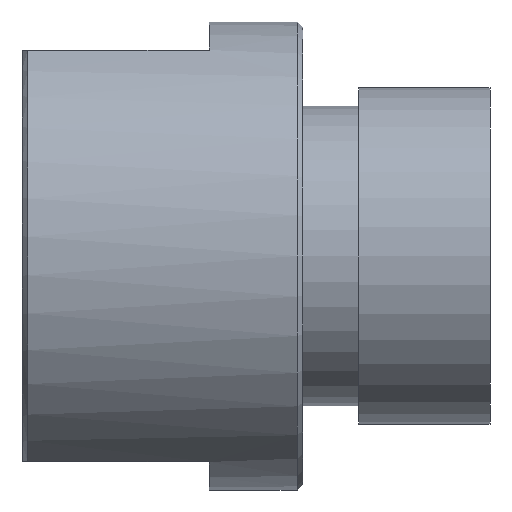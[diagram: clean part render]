
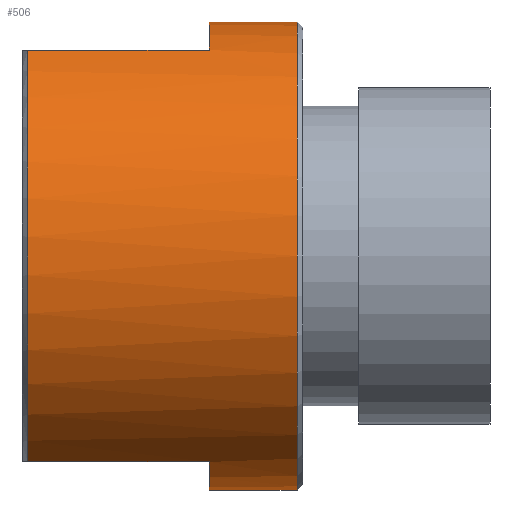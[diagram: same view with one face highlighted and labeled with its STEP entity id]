
A CAD part, left-side view. The second image highlights one B-rep face of the part: STEP entity #506.
In plain terms, the highlighted cylindrical face has radius 12.5 mm (diameter 25 mm), a partial arc.
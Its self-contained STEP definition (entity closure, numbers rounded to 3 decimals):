
#16 = ORIENTED_EDGE ( 'NONE', *, *, #124, .T. ) ;
#36 = AXIS2_PLACEMENT_3D ( 'NONE', #240, #230, #290 ) ;
#51 = CARTESIAN_POINT ( 'NONE',  ( 0., 5., 0. ) ) ;
#67 = CARTESIAN_POINT ( 'NONE',  ( 0., 15., 12.5 ) ) ;
#90 = DIRECTION ( 'NONE',  ( 0., 0., 1. ) ) ;
#91 = ORIENTED_EDGE ( 'NONE', *, *, #750, .F. ) ;
#96 = CARTESIAN_POINT ( 'NONE',  ( 0., 15., 0. ) ) ;
#104 = LINE ( 'NONE', #693, #375 ) ;
#106 = EDGE_CURVE ( 'NONE', #327, #377, #274, .T. ) ;
#124 = EDGE_CURVE ( 'NONE', #331, #377, #393, .T. ) ;
#134 = ORIENTED_EDGE ( 'NONE', *, *, #503, .F. ) ;
#137 = EDGE_CURVE ( 'NONE', #810, #341, #201, .T. ) ;
#153 = VECTOR ( 'NONE', #732, 1000. ) ;
#177 = CARTESIAN_POINT ( 'NONE',  ( -5.937, 15., -11. ) ) ;
#201 = LINE ( 'NONE', #67, #153 ) ;
#204 = ORIENTED_EDGE ( 'NONE', *, *, #371, .T. ) ;
#222 = CARTESIAN_POINT ( 'NONE',  ( 0., 0.3, -12.5 ) ) ;
#227 = EDGE_LOOP ( 'NONE', ( #276, #743, #91, #16, #544, #134, #204, #783 ) ) ;
#230 = DIRECTION ( 'NONE',  ( 0., -1., 0. ) ) ;
#240 = CARTESIAN_POINT ( 'NONE',  ( 0., 5., 0. ) ) ;
#274 = LINE ( 'NONE', #177, #608 ) ;
#276 = ORIENTED_EDGE ( 'NONE', *, *, #137, .F. ) ;
#281 = VERTEX_POINT ( 'NONE', #222 ) ;
#286 = EDGE_CURVE ( 'NONE', #281, #341, #522, .T. ) ;
#290 = DIRECTION ( 'NONE',  ( 0., 0., -1. ) ) ;
#292 = DIRECTION ( 'NONE',  ( 0., -1., 0. ) ) ;
#317 = DIRECTION ( 'NONE',  ( 0., 1., 0. ) ) ;
#327 = VERTEX_POINT ( 'NONE', #550 ) ;
#331 = VERTEX_POINT ( 'NONE', #685 ) ;
#341 = VERTEX_POINT ( 'NONE', #618 ) ;
#348 = AXIS2_PLACEMENT_3D ( 'NONE', #51, #565, #436 ) ;
#352 = VECTOR ( 'NONE', #830, 1000. ) ;
#357 = CARTESIAN_POINT ( 'NONE',  ( 0., 15., -12.5 ) ) ;
#371 = EDGE_CURVE ( 'NONE', #670, #281, #529, .T. ) ;
#375 = VECTOR ( 'NONE', #292, 1000. ) ;
#377 = VERTEX_POINT ( 'NONE', #615 ) ;
#386 = CIRCLE ( 'NONE', #36, 12.5 ) ;
#389 = EDGE_CURVE ( 'NONE', #810, #459, #386, .T. ) ;
#393 = CIRCLE ( 'NONE', #466, 12.5 ) ;
#401 = CARTESIAN_POINT ( 'NONE',  ( 0., 14.7, 0. ) ) ;
#436 = DIRECTION ( 'NONE',  ( -1., 0., 0. ) ) ;
#458 = DIRECTION ( 'NONE',  ( 0., 0., 1. ) ) ;
#459 = VERTEX_POINT ( 'NONE', #692 ) ;
#466 = AXIS2_PLACEMENT_3D ( 'NONE', #401, #657, #458 ) ;
#503 = EDGE_CURVE ( 'NONE', #670, #327, #671, .T. ) ;
#506 = ADVANCED_FACE ( 'NONE', ( #840 ), #862, .T. ) ;
#522 = CIRCLE ( 'NONE', #772, 12.5 ) ;
#529 = LINE ( 'NONE', #357, #352 ) ;
#544 = ORIENTED_EDGE ( 'NONE', *, *, #106, .F. ) ;
#550 = CARTESIAN_POINT ( 'NONE',  ( -5.937, 5., -11. ) ) ;
#565 = DIRECTION ( 'NONE',  ( 0., 1., 0. ) ) ;
#579 = DIRECTION ( 'NONE',  ( 0., -1., 0. ) ) ;
#608 = VECTOR ( 'NONE', #317, 1000. ) ;
#615 = CARTESIAN_POINT ( 'NONE',  ( -5.937, 14.7, -11. ) ) ;
#618 = CARTESIAN_POINT ( 'NONE',  ( 0., 0.3, 12.5 ) ) ;
#657 = DIRECTION ( 'NONE',  ( 0., -1., 0. ) ) ;
#670 = VERTEX_POINT ( 'NONE', #827 ) ;
#671 = CIRCLE ( 'NONE', #348, 12.5 ) ;
#685 = CARTESIAN_POINT ( 'NONE',  ( -5.937, 14.7, 11. ) ) ;
#689 = DIRECTION ( 'NONE',  ( 0., 1., 0. ) ) ;
#692 = CARTESIAN_POINT ( 'NONE',  ( -5.937, 5., 11. ) ) ;
#693 = CARTESIAN_POINT ( 'NONE',  ( -5.937, 15., 11. ) ) ;
#732 = DIRECTION ( 'NONE',  ( 0., -1., 0. ) ) ;
#743 = ORIENTED_EDGE ( 'NONE', *, *, #389, .T. ) ;
#750 = EDGE_CURVE ( 'NONE', #331, #459, #104, .T. ) ;
#761 = AXIS2_PLACEMENT_3D ( 'NONE', #96, #579, #779 ) ;
#772 = AXIS2_PLACEMENT_3D ( 'NONE', #835, #689, #90 ) ;
#779 = DIRECTION ( 'NONE',  ( 0., 0., -1. ) ) ;
#783 = ORIENTED_EDGE ( 'NONE', *, *, #286, .T. ) ;
#787 = CARTESIAN_POINT ( 'NONE',  ( 0., 5., 12.5 ) ) ;
#810 = VERTEX_POINT ( 'NONE', #787 ) ;
#827 = CARTESIAN_POINT ( 'NONE',  ( 0., 5., -12.5 ) ) ;
#830 = DIRECTION ( 'NONE',  ( 0., -1., 0. ) ) ;
#835 = CARTESIAN_POINT ( 'NONE',  ( 0., 0.3, 0. ) ) ;
#840 = FACE_OUTER_BOUND ( 'NONE', #227, .T. ) ;
#862 = CYLINDRICAL_SURFACE ( 'NONE', #761, 12.5 ) ;
